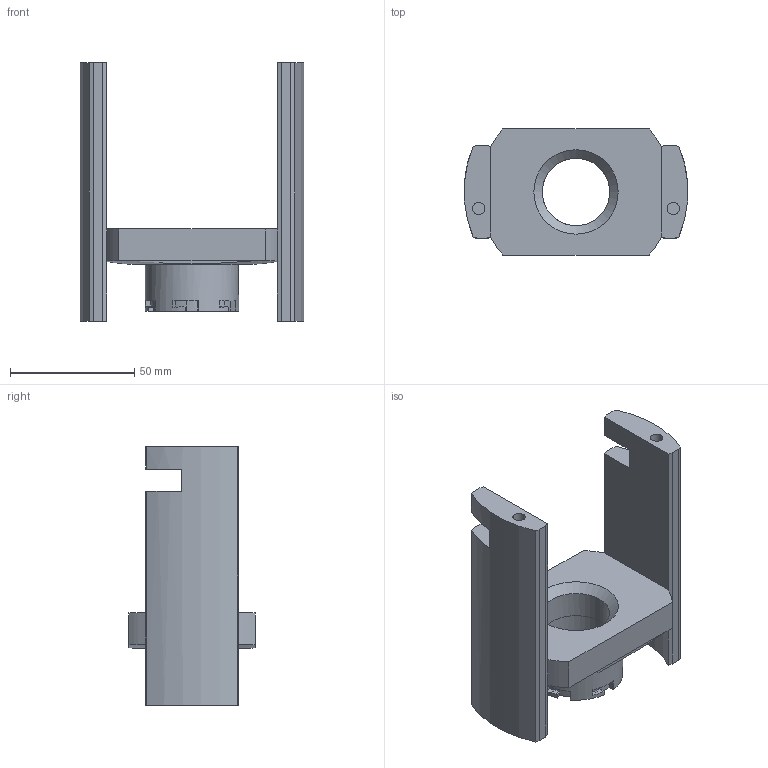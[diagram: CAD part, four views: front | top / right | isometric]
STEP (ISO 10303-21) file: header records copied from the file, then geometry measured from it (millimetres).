
FILE_DESCRIPTION(/* description */ (''),/* implementation_level */ '2;1');
FILE_NAME(/* name */ 'Clutch Carrier.stp',/* time_stamp */ '2026-07-31T08:32:10-06:00',/* author */ (''),/* organization */ (''),/* preprocessor_version */ 'ST-DEVELOPER v18.102',/* originating_system */ 'SIEMENS PLM Software NX 2027',/* authorisation */ '');
FILE_SCHEMA (('AUTOMOTIVE_DESIGN { 1 0 10303 214 3 1 1 1 }'));
Length unit declared in the file: inch
Products named in the file (1): Clutch Carrier
Bounding box: 89.84 x 50.8 x 104.05 mm (x, y, z)
Volume: 113685.8 mm3; surface area: 32020.2 mm2
Topology: 1 solids, 1 shells, 117 faces, 328 edges, 212 vertices
Faces by surface type: plane 63, bspline 44, cylinder 9, cone 1
Full cylindrical faces by diameter (mm): 5 x2, 27.172 x2, 37.636 x1
Entity records: 5725 total; most frequent: CARTESIAN_POINT 3169, ORIENTED_EDGE 634, DIRECTION 332, EDGE_CURVE 317, VERTEX_POINT 211, B_SPLINE_CURVE_WITH_KNOTS 166, EDGE_LOOP 128, LINE 118
